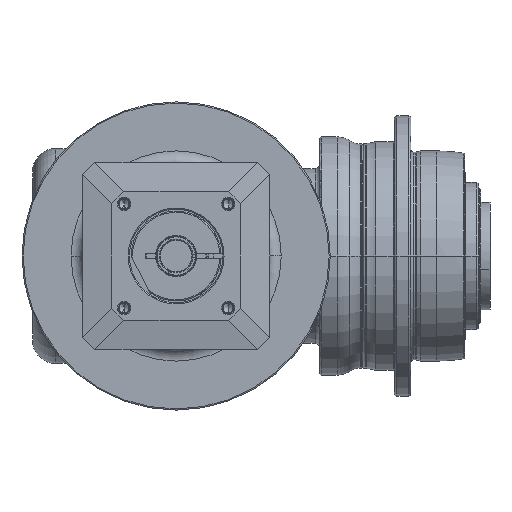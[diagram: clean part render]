
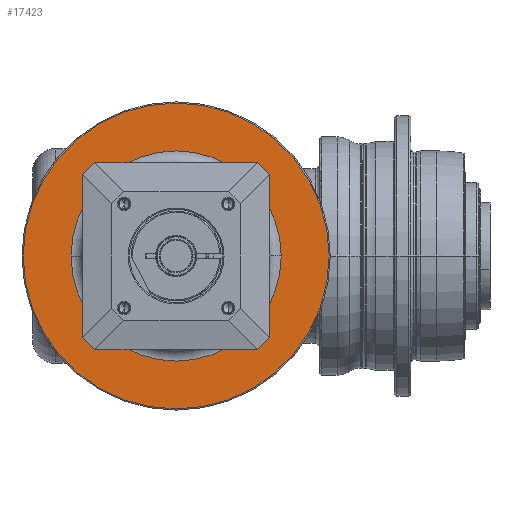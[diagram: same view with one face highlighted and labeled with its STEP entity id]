
A CAD part, front view. The second image highlights one B-rep face of the part: STEP entity #17423.
In plain terms, the highlighted planar face has unit normal (0, -1, 0) as drawn and (1, 0, 0) by its records, which use the part's own axes.
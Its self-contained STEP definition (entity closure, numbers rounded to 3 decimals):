
#16902=CARTESIAN_POINT('',(-9.,0.,0.));
#16903=DIRECTION('',(-1.,0.,0.));
#16904=DIRECTION('',(0.,-1.,0.));
#16905=AXIS2_PLACEMENT_3D('',#16902,#16903,#16904);
#16907=CARTESIAN_POINT('',(-9.,0.,0.));
#16908=DIRECTION('',(-1.,0.,0.));
#16909=DIRECTION('',(0.,1.,0.));
#16910=AXIS2_PLACEMENT_3D('',#16907,#16908,#16909);
#16912=CARTESIAN_POINT('',(-9.,0.,0.));
#16913=DIRECTION('',(-1.,0.,0.));
#16914=DIRECTION('',(0.,-1.,0.));
#16915=AXIS2_PLACEMENT_3D('',#16912,#16913,#16914);
#16917=CARTESIAN_POINT('',(-9.,0.,0.));
#16918=DIRECTION('',(-1.,0.,0.));
#16919=DIRECTION('',(0.,1.,0.));
#16920=AXIS2_PLACEMENT_3D('',#16917,#16918,#16919);
#16986=CARTESIAN_POINT('',(-9.,-65.5,0.));
#16987=CARTESIAN_POINT('',(-9.,65.5,0.));
#16988=VERTEX_POINT('',#16986);
#16989=VERTEX_POINT('',#16987);
#17010=CARTESIAN_POINT('',(-9.,-45.,0.));
#17011=CARTESIAN_POINT('',(-9.,45.,0.));
#17012=VERTEX_POINT('',#17010);
#17013=VERTEX_POINT('',#17011);
#17408=CARTESIAN_POINT('',(-9.,0.,0.));
#17409=DIRECTION('',(1.,0.,0.));
#17410=DIRECTION('',(0.,-1.,0.));
#17411=AXIS2_PLACEMENT_3D('',#17408,#17409,#17410);
#17412=PLANE('',#17411);
#17413=ORIENTED_EDGE('',*,*,#17349,.T.);
#17414=ORIENTED_EDGE('',*,*,#17364,.T.);
#17415=EDGE_LOOP('',(#17413,#17414));
#17416=FACE_OUTER_BOUND('',#17415,.F.);
#17418=ORIENTED_EDGE('',*,*,#17417,.F.);
#17420=ORIENTED_EDGE('',*,*,#17419,.F.);
#17421=EDGE_LOOP('',(#17418,#17420));
#17422=FACE_BOUND('',#17421,.F.);
#17423=ADVANCED_FACE('',(#17416,#17422),#17412,.T.);
#16906=CIRCLE('',#16905,45.);
#16911=CIRCLE('',#16910,45.);
#16916=CIRCLE('',#16915,65.5);
#16921=CIRCLE('',#16920,65.5);
#17349=EDGE_CURVE('',#16988,#16989,#16916,.T.);
#17364=EDGE_CURVE('',#16989,#16988,#16921,.T.);
#17417=EDGE_CURVE('',#17012,#17013,#16906,.T.);
#17419=EDGE_CURVE('',#17013,#17012,#16911,.T.);
